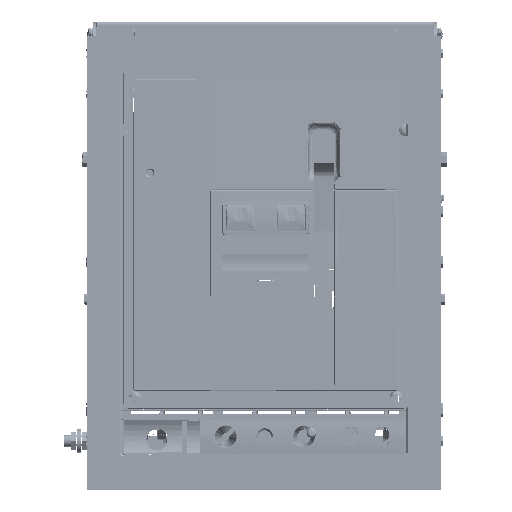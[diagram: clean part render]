
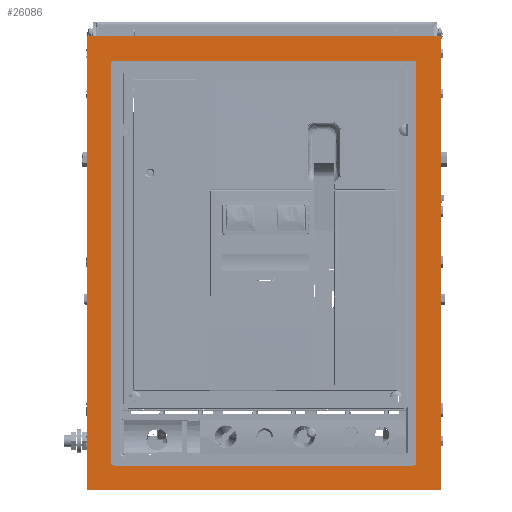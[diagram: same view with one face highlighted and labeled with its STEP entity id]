
A CAD part, top view. The second image highlights one B-rep face of the part: STEP entity #26086.
In plain terms, the highlighted planar face has unit normal (0, 0, 1).
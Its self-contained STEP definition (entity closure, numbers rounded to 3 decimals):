
#1273 = VERTEX_POINT ( 'NONE', #335068 ) ;
#4581 = DIRECTION ( 'NONE',  ( 0., -1., 0. ) ) ;
#13296 = DIRECTION ( 'NONE',  ( -1., 0., 0. ) ) ;
#17063 = DIRECTION ( 'NONE',  ( 0., -1., 0. ) ) ;
#21504 = AXIS2_PLACEMENT_3D ( 'NONE', #22655, #231016, #351378 ) ;
#22655 = CARTESIAN_POINT ( 'NONE',  ( -156.772, -198.4, 402.32 ) ) ;
#25692 = DIRECTION ( 'NONE',  ( -1., 0., 0. ) ) ;
#26086 = ADVANCED_FACE ( 'NONE', ( #275852, #155447 ), #258443, .T. ) ;
#26889 = CARTESIAN_POINT ( 'NONE',  ( 152.75, 210.583, 402.32 ) ) ;
#29563 = LINE ( 'NONE', #209233, #248489 ) ;
#31440 = DIRECTION ( 'NONE',  ( 1., 0., 0. ) ) ;
#31683 = CARTESIAN_POINT ( 'NONE',  ( -159.272, -198.4, 402.32 ) ) ;
#42507 = VERTEX_POINT ( 'NONE', #180235 ) ;
#44174 = VERTEX_POINT ( 'NONE', #322456 ) ;
#44731 = CARTESIAN_POINT ( 'NONE',  ( 150.228, -200.917, 402.32 ) ) ;
#48296 = ORIENTED_EDGE ( 'NONE', *, *, #321637, .T. ) ;
#48884 = EDGE_CURVE ( 'NONE', #114019, #120450, #153522, .T. ) ;
#51774 = VECTOR ( 'NONE', #292528, 1000. ) ;
#59113 = ORIENTED_EDGE ( 'NONE', *, *, #163986, .T. ) ;
#60175 = VECTOR ( 'NONE', #174220, 1000. ) ;
#63191 = AXIS2_PLACEMENT_3D ( 'NONE', #82985, #106005, #25692 ) ;
#72332 = DIRECTION ( 'NONE',  ( 0., 1., 0. ) ) ;
#76623 = ORIENTED_EDGE ( 'NONE', *, *, #277410, .T. ) ;
#82985 = CARTESIAN_POINT ( 'NONE',  ( -156.75, 210.6, 402.32 ) ) ;
#86203 = LINE ( 'NONE', #319503, #60175 ) ;
#89790 = VERTEX_POINT ( 'NONE', #368057 ) ;
#93746 = CARTESIAN_POINT ( 'NONE',  ( -184.248, 238.101, 402.32 ) ) ;
#100855 = DIRECTION ( 'NONE',  ( 1., 0., 0. ) ) ;
#102062 = AXIS2_PLACEMENT_3D ( 'NONE', #143492, #376698, #256369 ) ;
#104940 = LINE ( 'NONE', #277131, #108537 ) ;
#106005 = DIRECTION ( 'NONE',  ( 0., 0., -1. ) ) ;
#107418 = CARTESIAN_POINT ( 'NONE',  ( -3.261, 6.092, 402.32 ) ) ;
#108537 = VECTOR ( 'NONE', #13296, 1000. ) ;
#110344 = ORIENTED_EDGE ( 'NONE', *, *, #231010, .T. ) ;
#113268 = ORIENTED_EDGE ( 'NONE', *, *, #154816, .T. ) ;
#114019 = VERTEX_POINT ( 'NONE', #124565 ) ;
#114543 = EDGE_CURVE ( 'NONE', #89790, #188971, #255365, .T. ) ;
#120450 = VERTEX_POINT ( 'NONE', #26889 ) ;
#124565 = CARTESIAN_POINT ( 'NONE',  ( 150.251, 213.083, 402.32 ) ) ;
#129579 = LINE ( 'NONE', #158306, #214525 ) ;
#135554 = CARTESIAN_POINT ( 'NONE',  ( -184.248, 238.101, 402.32 ) ) ;
#143492 = CARTESIAN_POINT ( 'NONE',  ( 150.228, -198.417, 402.32 ) ) ;
#146185 = VERTEX_POINT ( 'NONE', #285044 ) ;
#147238 = AXIS2_PLACEMENT_3D ( 'NONE', #213931, #334311, #72332 ) ;
#152985 = LINE ( 'NONE', #135554, #357867 ) ;
#153522 = CIRCLE ( 'NONE', #147238, 2.5 ) ;
#154816 = EDGE_CURVE ( 'NONE', #120450, #42507, #239676, .T. ) ;
#155447 = FACE_OUTER_BOUND ( 'NONE', #230672, .T. ) ;
#157398 = CARTESIAN_POINT ( 'NONE',  ( 152.75, 210.583, 402.32 ) ) ;
#158306 = CARTESIAN_POINT ( 'NONE',  ( -156.749, 213.1, 402.32 ) ) ;
#160906 = CIRCLE ( 'NONE', #63191, 2.5 ) ;
#163688 = DIRECTION ( 'NONE',  ( 0., 1., 0. ) ) ;
#163986 = EDGE_CURVE ( 'NONE', #146185, #277799, #284045, .T. ) ;
#174220 = DIRECTION ( 'NONE',  ( -1., 0., 0. ) ) ;
#176613 = CARTESIAN_POINT ( 'NONE',  ( -156.749, 213.1, 402.32 ) ) ;
#178628 = EDGE_CURVE ( 'NONE', #188971, #329265, #86203, .T. ) ;
#180235 = CARTESIAN_POINT ( 'NONE',  ( 152.728, -198.417, 402.32 ) ) ;
#188971 = VERTEX_POINT ( 'NONE', #332420 ) ;
#198033 = EDGE_CURVE ( 'NONE', #277799, #44174, #351763, .T. ) ;
#205159 = VERTEX_POINT ( 'NONE', #176613 ) ;
#209233 = CARTESIAN_POINT ( 'NONE',  ( -184.273, -225.899, 402.32 ) ) ;
#213931 = CARTESIAN_POINT ( 'NONE',  ( 150.25, 210.583, 402.32 ) ) ;
#214525 = VECTOR ( 'NONE', #100855, 1000. ) ;
#217877 = ORIENTED_EDGE ( 'NONE', *, *, #178628, .T. ) ;
#224105 = DIRECTION ( 'NONE',  ( 1., 0., 0. ) ) ;
#229937 = EDGE_LOOP ( 'NONE', ( #76623, #59113, #375029, #258804, #355777, #265727, #113268, #275093 ) ) ;
#230672 = EDGE_LOOP ( 'NONE', ( #48296, #285065, #217877, #110344 ) ) ;
#231010 = EDGE_CURVE ( 'NONE', #329265, #1273, #152985, .T. ) ;
#231016 = DIRECTION ( 'NONE',  ( 0., 0., -1. ) ) ;
#234726 = EDGE_CURVE ( 'NONE', #42507, #266493, #273264, .T. ) ;
#239676 = LINE ( 'NONE', #157398, #337352 ) ;
#246738 = VECTOR ( 'NONE', #163688, 1000. ) ;
#248489 = VECTOR ( 'NONE', #31440, 1000. ) ;
#253206 = AXIS2_PLACEMENT_3D ( 'NONE', #107418, #376913, #224105 ) ;
#255365 = LINE ( 'NONE', #316471, #246738 ) ;
#256152 = EDGE_CURVE ( 'NONE', #205159, #114019, #129579, .T. ) ;
#256369 = DIRECTION ( 'NONE',  ( 1., 0., 0. ) ) ;
#258443 = PLANE ( 'NONE',  #253206 ) ;
#258804 = ORIENTED_EDGE ( 'NONE', *, *, #307993, .T. ) ;
#265727 = ORIENTED_EDGE ( 'NONE', *, *, #48884, .T. ) ;
#266493 = VERTEX_POINT ( 'NONE', #44731 ) ;
#273264 = CIRCLE ( 'NONE', #102062, 2.5 ) ;
#275093 = ORIENTED_EDGE ( 'NONE', *, *, #234726, .T. ) ;
#275852 = FACE_BOUND ( 'NONE', #229937, .T. ) ;
#277131 = CARTESIAN_POINT ( 'NONE',  ( 150.228, -200.917, 402.32 ) ) ;
#277410 = EDGE_CURVE ( 'NONE', #266493, #146185, #104940, .T. ) ;
#277799 = VERTEX_POINT ( 'NONE', #31683 ) ;
#284045 = CIRCLE ( 'NONE', #21504, 2.5 ) ;
#285044 = CARTESIAN_POINT ( 'NONE',  ( -156.772, -200.9, 402.32 ) ) ;
#285065 = ORIENTED_EDGE ( 'NONE', *, *, #114543, .T. ) ;
#292528 = DIRECTION ( 'NONE',  ( 0., 1., 0. ) ) ;
#307993 = EDGE_CURVE ( 'NONE', #44174, #205159, #160906, .T. ) ;
#316471 = CARTESIAN_POINT ( 'NONE',  ( 177.727, -225.918, 402.32 ) ) ;
#319503 = CARTESIAN_POINT ( 'NONE',  ( 177.752, 238.082, 402.32 ) ) ;
#321637 = EDGE_CURVE ( 'NONE', #1273, #89790, #29563, .T. ) ;
#322456 = CARTESIAN_POINT ( 'NONE',  ( -159.25, 210.6, 402.32 ) ) ;
#324997 = CARTESIAN_POINT ( 'NONE',  ( -159.272, -198.4, 402.32 ) ) ;
#329265 = VERTEX_POINT ( 'NONE', #93746 ) ;
#332420 = CARTESIAN_POINT ( 'NONE',  ( 177.752, 238.082, 402.32 ) ) ;
#334311 = DIRECTION ( 'NONE',  ( 0., 0., -1. ) ) ;
#335068 = CARTESIAN_POINT ( 'NONE',  ( -184.273, -225.899, 402.32 ) ) ;
#337352 = VECTOR ( 'NONE', #4581, 1000. ) ;
#351378 = DIRECTION ( 'NONE',  ( 0., -1., 0. ) ) ;
#351763 = LINE ( 'NONE', #324997, #51774 ) ;
#355777 = ORIENTED_EDGE ( 'NONE', *, *, #256152, .T. ) ;
#357867 = VECTOR ( 'NONE', #17063, 1000. ) ;
#368057 = CARTESIAN_POINT ( 'NONE',  ( 177.727, -225.918, 402.32 ) ) ;
#375029 = ORIENTED_EDGE ( 'NONE', *, *, #198033, .T. ) ;
#376698 = DIRECTION ( 'NONE',  ( 0., 0., -1. ) ) ;
#376913 = DIRECTION ( 'NONE',  ( 0., 0., 1. ) ) ;
